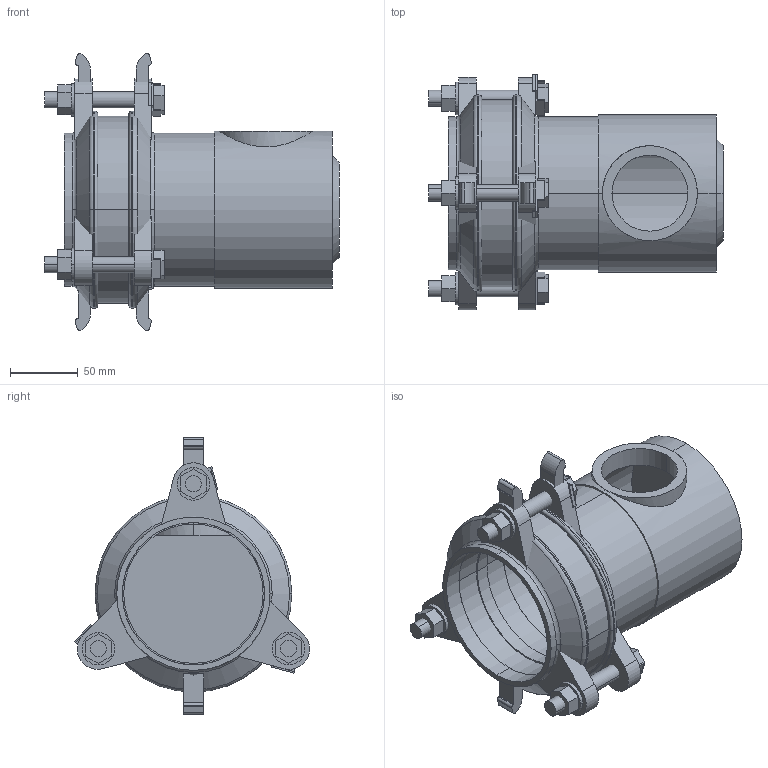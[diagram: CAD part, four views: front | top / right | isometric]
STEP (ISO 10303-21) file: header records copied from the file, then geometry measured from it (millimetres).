
FILE_DESCRIPTION(('STEP AP214'),'1');
FILE_NAME('HDA0003930 DN 80 radial.STP','2015-02-06T10:14:50',(' '),(' '),'Spatial InterOp 3D',' ',' ');
FILE_SCHEMA(('automotive_design'));
Length unit declared in the file: millimetre
Products named in the file (35): 3D-Objekt
Bounding box: 217 x 173.26 x 204 mm (x, y, z)
Volume: 838530.6 mm3; surface area: 311950.8 mm2
Topology: 35 solids, 35 shells, 284 faces, 631 edges, 418 vertices
Faces by surface type: plane 183, cylinder 79, torus 12, cone 10
Entity records: 11231 total; most frequent: CARTESIAN_POINT 1631, DIRECTION 1469, ORIENTED_EDGE 1262, EDGE_CURVE 631, AXIS2_PLACEMENT_3D 525, LINE 419, VECTOR 419, VERTEX_POINT 418
